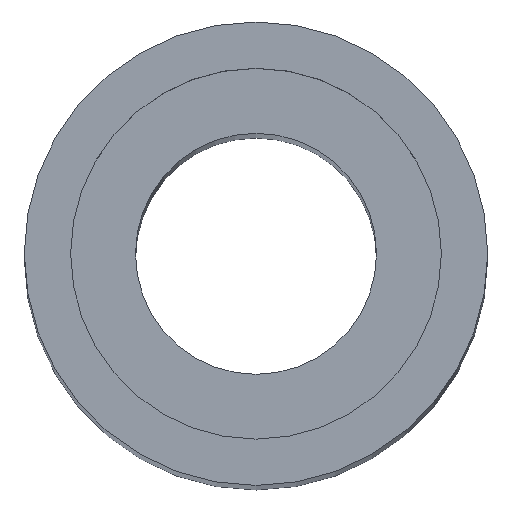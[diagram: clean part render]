
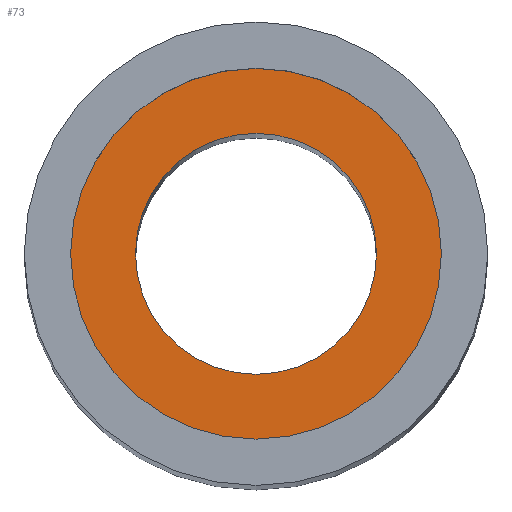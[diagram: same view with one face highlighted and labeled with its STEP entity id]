
A CAD part, top view. The second image highlights one B-rep face of the part: STEP entity #73.
In plain terms, the highlighted planar face has unit normal (0, 0, 1).
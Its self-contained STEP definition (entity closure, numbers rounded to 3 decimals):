
#57=FACE_BOUND('',#100,.F.);
#61=PLANE('',#259);
#73=ADVANCED_FACE('',(#57,#85),#61,.T.);
#85=FACE_OUTER_BOUND('',#101,.F.);
#100=EDGE_LOOP('',(#146,#147));
#101=EDGE_LOOP('',(#148,#149));
#146=ORIENTED_EDGE('',*,*,#175,.F.);
#147=ORIENTED_EDGE('',*,*,#174,.F.);
#148=ORIENTED_EDGE('',*,*,#197,.T.);
#149=ORIENTED_EDGE('',*,*,#194,.T.);
#174=EDGE_CURVE('',#229,#228,#198,.T.);
#175=EDGE_CURVE('',#228,#229,#199,.T.);
#194=EDGE_CURVE('',#215,#214,#212,.T.);
#197=EDGE_CURVE('',#214,#215,#213,.T.);
#198=CIRCLE('',#232,2.6);
#199=CIRCLE('',#233,2.6);
#212=CIRCLE('',#246,4.);
#213=CIRCLE('',#247,4.);
#214=VERTEX_POINT('',#330);
#215=VERTEX_POINT('',#331);
#228=VERTEX_POINT('',#344);
#229=VERTEX_POINT('',#345);
#232=AXIS2_PLACEMENT_3D('',#346,#263,#264);
#233=AXIS2_PLACEMENT_3D('',#347,#265,#266);
#246=AXIS2_PLACEMENT_3D('',#366,#297,#298);
#247=AXIS2_PLACEMENT_3D('',#369,#301,#302);
#259=AXIS2_PLACEMENT_3D('',#381,#325,#326);
#263=DIRECTION('',(0.,0.,-1.));
#264=DIRECTION('',(0.866,-0.5,0.));
#265=DIRECTION('',(0.,0.,-1.));
#266=DIRECTION('',(-0.866,0.5,0.));
#297=DIRECTION('',(0.,0.,-1.));
#298=DIRECTION('',(-0.866,0.5,0.));
#301=DIRECTION('',(0.,0.,-1.));
#302=DIRECTION('',(0.866,-0.5,0.));
#325=DIRECTION('',(0.,0.,1.));
#326=DIRECTION('',(0.5,0.866,0.));
#330=CARTESIAN_POINT('',(-251.413,36.289,-819.935));
#331=CARTESIAN_POINT('',(-258.341,40.289,-819.935));
#344=CARTESIAN_POINT('',(-257.128,39.589,-819.935));
#345=CARTESIAN_POINT('',(-252.625,36.989,-819.935));
#346=CARTESIAN_POINT('',(-254.877,38.289,-819.935));
#347=CARTESIAN_POINT('',(-254.877,38.289,-819.935));
#366=CARTESIAN_POINT('',(-254.877,38.289,-819.935));
#369=CARTESIAN_POINT('',(-254.877,38.289,-819.935));
#381=CARTESIAN_POINT('',(-260.45,36.796,-819.935));
